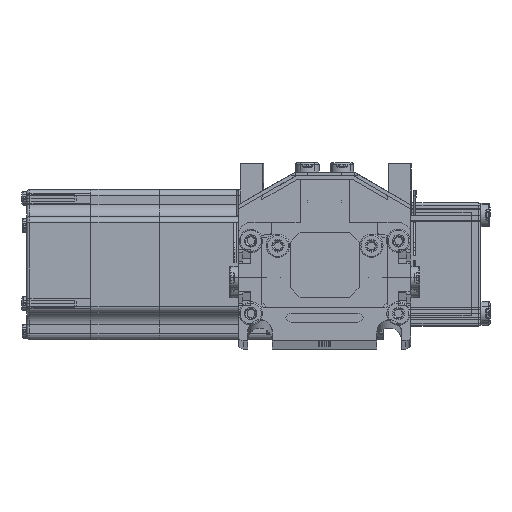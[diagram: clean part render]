
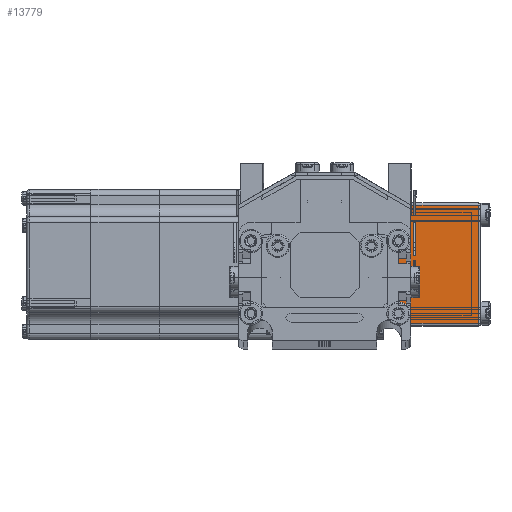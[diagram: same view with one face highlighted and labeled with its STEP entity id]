
A CAD part, top view. The second image highlights one B-rep face of the part: STEP entity #13779.
In plain terms, the highlighted planar face has unit normal (0, 0, 1) as drawn and (-1, 0, 0) by its records, which use the part's own axes.
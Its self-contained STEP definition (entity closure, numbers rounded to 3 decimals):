
#13020 = VERTEX_POINT ( 'NONE', #62950 ) ;
#13624 = EDGE_CURVE ( 'NONE', #13673, #13807, #108334, .T. ) ;
#13673 = VERTEX_POINT ( 'NONE', #108444 ) ;
#13678 = EDGE_LOOP ( 'NONE', ( #13797, #13775, #13751, #13844 ) ) ;
#13751 = ORIENTED_EDGE ( 'NONE', *, *, #13848, .T. ) ;
#13774 = EDGE_CURVE ( 'NONE', #13020, #13846, #108883, .T. ) ;
#13775 = ORIENTED_EDGE ( 'NONE', *, *, #13774, .T. ) ;
#13779 = ADVANCED_FACE ( 'NONE', ( #108875 ), #108833, .F. ) ;
#13797 = ORIENTED_EDGE ( 'NONE', *, *, #14207, .T. ) ;
#13807 = VERTEX_POINT ( 'NONE', #108935 ) ;
#13844 = ORIENTED_EDGE ( 'NONE', *, *, #13624, .T. ) ;
#13846 = VERTEX_POINT ( 'NONE', #109178 ) ;
#13848 = EDGE_CURVE ( 'NONE', #13846, #13673, #109121, .T. ) ;
#14207 = EDGE_CURVE ( 'NONE', #13807, #13020, #115602, .T. ) ;
#62950 = CARTESIAN_POINT ( 'NONE',  ( -50., -24., 0. ) ) ;
#108329 = DIRECTION ( 'NONE',  ( 0., 0., -1. ) ) ;
#108330 = VECTOR ( 'NONE', #108329, 1000. ) ;
#108332 = CARTESIAN_POINT ( 'NONE',  ( -50., 24., 39.5 ) ) ;
#108334 = LINE ( 'NONE', #108332, #108330 ) ;
#108444 = CARTESIAN_POINT ( 'NONE',  ( -50., 24., 38.5 ) ) ;
#108780 = AXIS2_PLACEMENT_3D ( 'NONE', #108874, #108885, #108855 ) ;
#108833 = PLANE ( 'NONE',  #108780 ) ;
#108855 = DIRECTION ( 'NONE',  ( 0., 1., 0. ) ) ;
#108874 = CARTESIAN_POINT ( 'NONE',  ( -50., 25., 39.5 ) ) ;
#108875 = FACE_OUTER_BOUND ( 'NONE', #13678, .T. ) ;
#108876 = DIRECTION ( 'NONE',  ( 0., 0., 1. ) ) ;
#108878 = VECTOR ( 'NONE', #108876, 1000. ) ;
#108882 = CARTESIAN_POINT ( 'NONE',  ( -50., -24., 39.5 ) ) ;
#108883 = LINE ( 'NONE', #108882, #108878 ) ;
#108885 = DIRECTION ( 'NONE',  ( 1., 0., 0. ) ) ;
#108935 = CARTESIAN_POINT ( 'NONE',  ( -50., 24., 0. ) ) ;
#109121 = LINE ( 'NONE', #109339, #109336 ) ;
#109178 = CARTESIAN_POINT ( 'NONE',  ( -50., -24., 38.5 ) ) ;
#109333 = DIRECTION ( 'NONE',  ( 0., 1., 0. ) ) ;
#109336 = VECTOR ( 'NONE', #109333, 1000. ) ;
#109339 = CARTESIAN_POINT ( 'NONE',  ( -50., 25., 38.5 ) ) ;
#115602 = LINE ( 'NONE', #115669, #115667 ) ;
#115666 = DIRECTION ( 'NONE',  ( 0., -1., 0. ) ) ;
#115667 = VECTOR ( 'NONE', #115666, 1000. ) ;
#115669 = CARTESIAN_POINT ( 'NONE',  ( -50., 25., 0. ) ) ;
